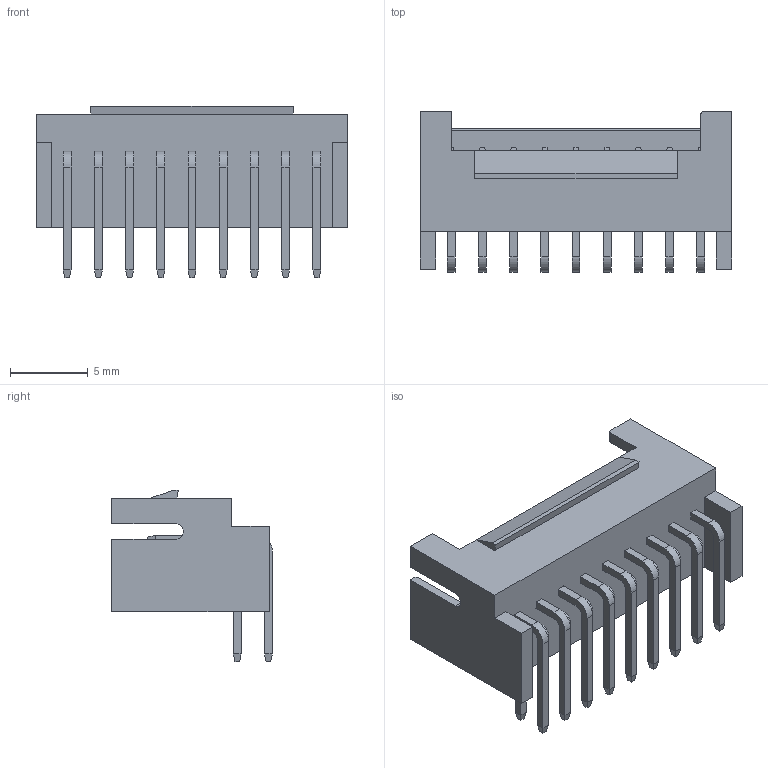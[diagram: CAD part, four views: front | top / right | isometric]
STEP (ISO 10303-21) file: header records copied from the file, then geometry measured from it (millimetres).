
FILE_DESCRIPTION(('CATIA V5 STEP Exchange'),'2;1');
FILE_NAME('F:\黄富鸿\条形连接器\2.00系列\02--PHB\2xNAW\HC-PHB-2x9AW-05 (2.00 双排 弯针-HCTL).stp','2026-03-03T08:48:43+00:00',('none'),('none'),'CATIA Version 5 Release 20 GA (IN-10)','CATIA V5 STEP AP203','none');
FILE_SCHEMA(('CONFIG_CONTROL_DESIGN'));
Length unit declared in the file: millimetre
Products named in the file (1): Part4
Bounding box: 20 x 10.3 x 11 mm (x, y, z)
Volume: 492.9 mm3; surface area: 1487.4 mm2
Topology: 19 solids, 19 shells, 449 faces, 1081 edges, 670 vertices
Faces by surface type: plane 409, cylinder 40
Entity records: 11151 total; most frequent: ORIENTED_EDGE 2162, CARTESIAN_POINT 2087, DIRECTION 1283, EDGE_CURVE 1081, VECTOR 849, LINE 849, VERTEX_POINT 670, EDGE_LOOP 485
